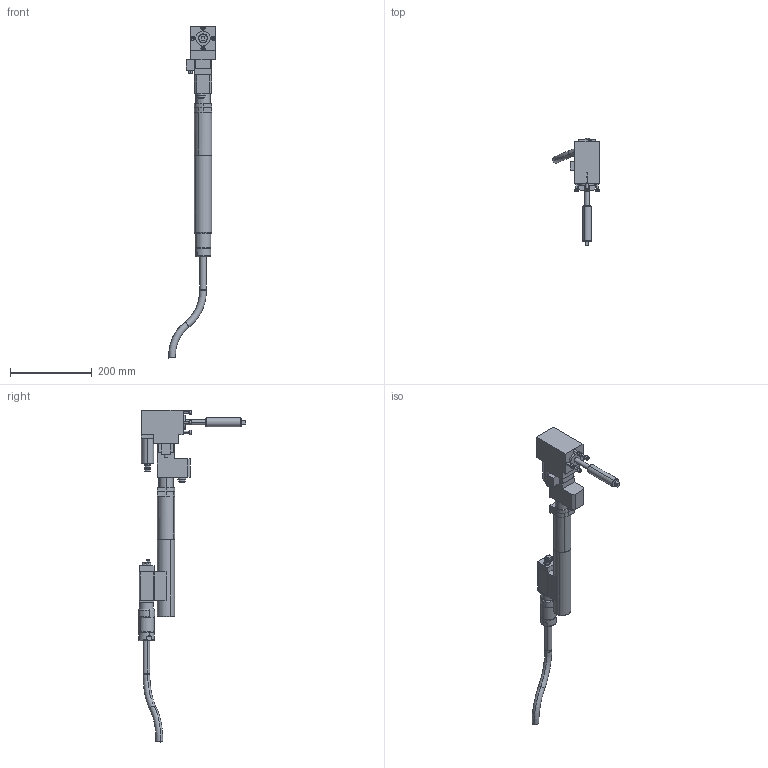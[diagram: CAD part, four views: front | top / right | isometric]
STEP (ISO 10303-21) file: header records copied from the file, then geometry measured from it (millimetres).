
FILE_DESCRIPTION(('CATIA V5 STEP Exchange'),'2;1');
FILE_NAME('O:\3D-Schrauber\Einschauschrauber Groesse1 CATIA V4+V5\7920292_ECR103_DWR35_W1_AWD150-15_AllCATPart.stp','2008-11-06T10:37:24+00:00',('none'),('none'),'CATIA Version 5 Release 16 (IN-10)','CATIA V5 STEP AP203','none');
FILE_SCHEMA(('CONFIG_CONTROL_DESIGN'));
Length unit declared in the file: millimetre
Products named in the file (1): 7920292_ECR103_DWR35_W1_AWD150-15_AllCATPart
Bounding box: 113.82 x 262.23 x 810.16 mm (x, y, z)
Volume: 1596686.7 mm3; surface area: 203152.3 mm2
Topology: 18 solids, 18 shells, 431 faces, 981 edges, 624 vertices
Faces by surface type: plane 200, cylinder 155, cone 44, torus 32
Entity records: 11343 total; most frequent: CARTESIAN_POINT 2260, ORIENTED_EDGE 1942, DIRECTION 1553, EDGE_CURVE 971, AXIS2_PLACEMENT_3D 731, VERTEX_POINT 623, VECTOR 512, LINE 512
